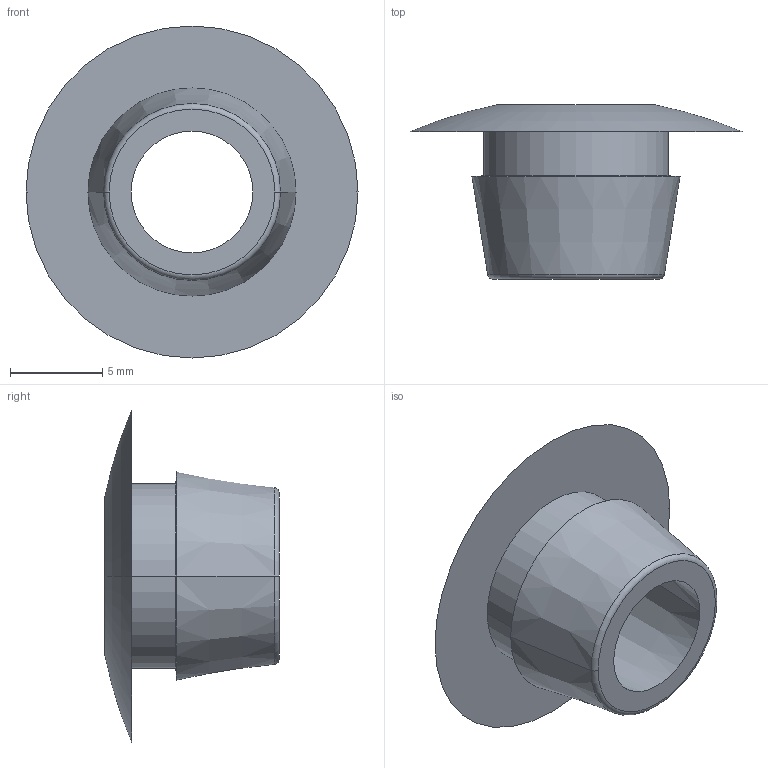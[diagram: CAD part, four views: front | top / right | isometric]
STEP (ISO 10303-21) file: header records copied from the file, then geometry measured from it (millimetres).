
FILE_DESCRIPTION (( 'STEP AP203' ), '1' );
FILE_NAME ('013.100.057.STEP', '2021-10-25T10:23:00', ( '' ), ( '' ), 'SwSTEP 2.0', 'SolidWorks 2018', '' );
FILE_SCHEMA (( 'CONFIG_CONTROL_DESIGN' ));
Length unit declared in the file: millimetre
Products named in the file (1): 013.100.057
Bounding box: 18 x 9.45 x 18 mm (x, y, z)
Volume: 497.8 mm3; surface area: 919.3 mm2
Topology: 1 solids, 1 shells, 16 faces, 32 edges, 18 vertices
Faces by surface type: torus 6, cone 6, plane 2, cylinder 2
Entity records: 501 total; most frequent: DIRECTION 90, CARTESIAN_POINT 67, ORIENTED_EDGE 64, AXIS2_PLACEMENT_3D 41, EDGE_CURVE 32, CIRCLE 24, VERTEX_POINT 18, EDGE_LOOP 18
